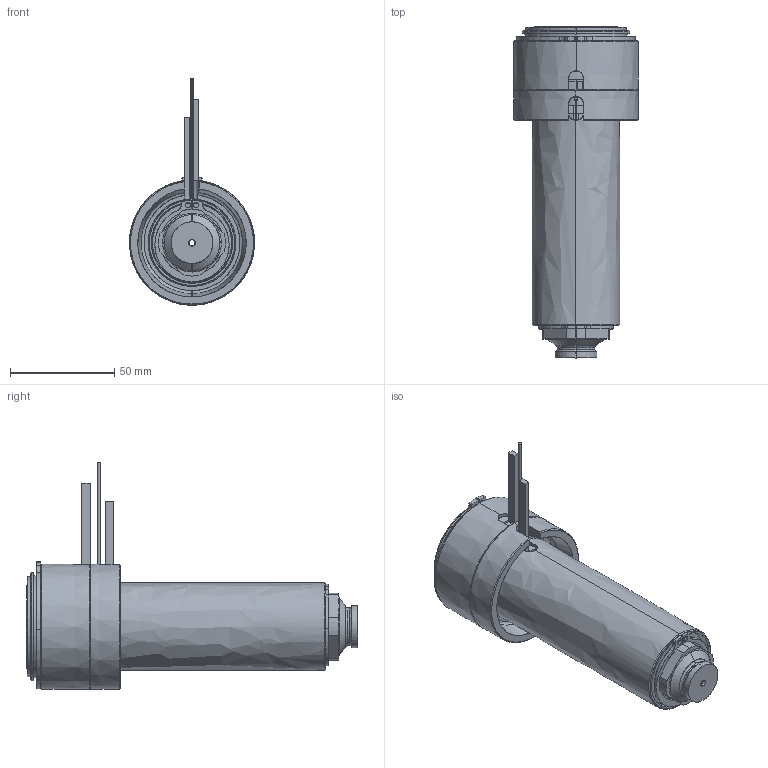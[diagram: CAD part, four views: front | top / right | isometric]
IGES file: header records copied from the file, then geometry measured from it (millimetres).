
Start section: SolidWorks IGES file using analytic representation for surfaces
Global section: file name: C:\Documents and Settings\ws-20\Desktop\TEM\UGER6605-M-A-1 [Øb-2.9 P-0 ØC-15].IGS; native system: SolidWorks 2012; preprocessor: SolidWorks 2012; author: ws-20; date: 120417.120002; units: millimetre
Bounding box: 60 x 159.25 x 108.65 mm (x, y, z)
Surface area: 92270.7 mm2 (no closed solid volume)
Topology: 0 solids, 0 shells, 168 faces, 3084 edges, 3084 vertices
Faces by surface type: revolution 100, bspline 68
